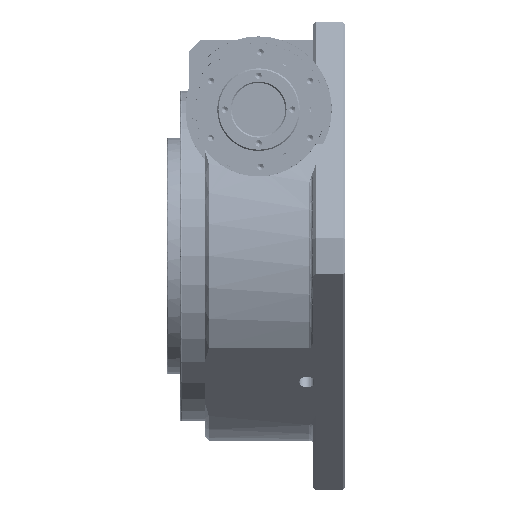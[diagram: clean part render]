
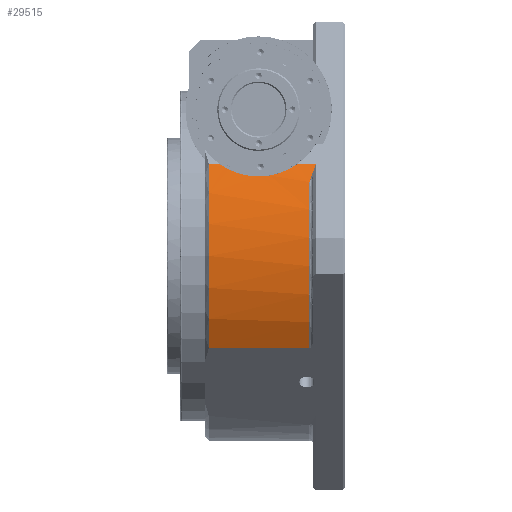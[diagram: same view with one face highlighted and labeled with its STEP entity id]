
A CAD part, left-side view. The second image highlights one B-rep face of the part: STEP entity #29515.
In plain terms, the highlighted cylindrical face has radius 145 mm (diameter 290 mm), a partial arc.
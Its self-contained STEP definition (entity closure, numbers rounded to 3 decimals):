
#535 = VERTEX_POINT ( 'NONE', #130829 ) ;
#1623 = CARTESIAN_POINT ( 'NONE',  ( -129.682, 83.597, 64.866 ) ) ;
#2146 = ORIENTED_EDGE ( 'NONE', *, *, #83223, .T. ) ;
#8179 = CYLINDRICAL_SURFACE ( 'NONE', #35228, 145. ) ;
#10221 = CARTESIAN_POINT ( 'NONE',  ( 0., 28., 0. ) ) ;
#12772 = EDGE_CURVE ( 'NONE', #101936, #31746, #26034, .T. ) ;
#13125 = CARTESIAN_POINT ( 'NONE',  ( -128.615, 89.365, 66.97 ) ) ;
#15350 = CARTESIAN_POINT ( 'NONE',  ( -128.295, 45.451, 67.57 ) ) ;
#16404 = CARTESIAN_POINT ( 'NONE',  ( -125.688, 28., -72.302 ) ) ;
#20245 = ORIENTED_EDGE ( 'NONE', *, *, #12772, .T. ) ;
#21694 = DIRECTION ( 'NONE',  ( 0., 0., 1. ) ) ;
#22859 = CARTESIAN_POINT ( 'NONE',  ( 0., 110., 0. ) ) ;
#24135 = CARTESIAN_POINT ( 'NONE',  ( -130.839, 68., 62.5 ) ) ;
#24628 = CARTESIAN_POINT ( 'NONE',  ( -126.573, 96.396, 70.763 ) ) ;
#26034 = CIRCLE ( 'NONE', #76426, 145. ) ;
#26176 = ORIENTED_EDGE ( 'NONE', *, *, #138007, .T. ) ;
#26833 = CARTESIAN_POINT ( 'NONE',  ( -128.991, 48.551, 66.231 ) ) ;
#29415 = VERTEX_POINT ( 'NONE', #77980 ) ;
#29515 = ADVANCED_FACE ( 'NONE', ( #130167 ), #8179, .T. ) ;
#29600 = VERTEX_POINT ( 'NONE', #94472 ) ;
#31746 = VERTEX_POINT ( 'NONE', #76129 ) ;
#31864 = CARTESIAN_POINT ( 'NONE',  ( 0., 107., 0. ) ) ;
#34215 = CARTESIAN_POINT ( 'NONE',  ( -125.688, 110., 72.302 ) ) ;
#35228 = AXIS2_PLACEMENT_3D ( 'NONE', #22859, #45860, #68924 ) ;
#38359 = CARTESIAN_POINT ( 'NONE',  ( -129.358, 50.466, 65.51 ) ) ;
#38453 = CIRCLE ( 'NONE', #98173, 145. ) ;
#38677 = CARTESIAN_POINT ( 'NONE',  ( -128.345, 24.387, 67.684 ) ) ;
#43367 = DIRECTION ( 'NONE',  ( 0., 0., -1. ) ) ;
#45722 =( BOUNDED_CURVE ( )  B_SPLINE_CURVE ( 3, ( #119009, #38677, #130483, #61695 ),
 .UNSPECIFIED., .F., .F. ) 
 B_SPLINE_CURVE_WITH_KNOTS ( ( 4, 4 ),
 ( 0.263, 0.374 ),
 .UNSPECIFIED. ) 
 CURVE ( )  GEOMETRIC_REPRESENTATION_ITEM ( )  RATIONAL_B_SPLINE_CURVE ( ( 1., 0.999, 0.999, 1. ) ) 
 REPRESENTATION_ITEM ( '' )  );
#45860 = DIRECTION ( 'NONE',  ( 0., -1., 0. ) ) ;
#46218 = DIRECTION ( 'NONE',  ( 0., 1., 0. ) ) ;
#47133 = CARTESIAN_POINT ( 'NONE',  ( -130.421, 77.603, 63.367 ) ) ;
#49822 = CARTESIAN_POINT ( 'NONE',  ( -130.007, 54.39, 64.22 ) ) ;
#50786 = VERTEX_POINT ( 'NONE', #118747 ) ;
#53249 = DIRECTION ( 'NONE',  ( 0., -1., 0. ) ) ;
#58592 = LINE ( 'NONE', #99415, #143017 ) ;
#58647 = CARTESIAN_POINT ( 'NONE',  ( -130.054, 80.948, 64.117 ) ) ;
#59295 = ORIENTED_EDGE ( 'NONE', *, *, #122016, .T. ) ;
#59752 = EDGE_CURVE ( 'NONE', #535, #29415, #137883, .T. ) ;
#60889 = CARTESIAN_POINT ( 'NONE',  ( -126.573, 39.604, 70.763 ) ) ;
#61369 = CARTESIAN_POINT ( 'NONE',  ( -130.734, 62.462, 62.721 ) ) ;
#61695 = CARTESIAN_POINT ( 'NONE',  ( -132.876, 28., 58.043 ) ) ;
#66812 = ORIENTED_EDGE ( 'NONE', *, *, #119793, .T. ) ;
#68030 = B_SPLINE_CURVE_WITH_KNOTS ( 'NONE', 3,
 ( #24135, #81240, #115956, #47133, #127422, #58647, #139012, #70209, #1623, #81736, #13125, #93264, #24628, #104873 ),
 .UNSPECIFIED., .F., .F.,
 ( 4, 2, 2, 2, 2, 2, 4 ),
 ( 0.033, 0.041, 0.045, 0.047, 0.05, 0.058, 0.066 ),
 .UNSPECIFIED. ) ;
#68924 = DIRECTION ( 'NONE',  ( 0., 0., -1. ) ) ;
#70209 = CARTESIAN_POINT ( 'NONE',  ( -129.783, 82.936, 64.665 ) ) ;
#72942 = CARTESIAN_POINT ( 'NONE',  ( -130.839, 68., 62.5 ) ) ;
#76129 = CARTESIAN_POINT ( 'NONE',  ( -132.876, 28., 58.043 ) ) ;
#76426 = AXIS2_PLACEMENT_3D ( 'NONE', #10221, #90350, #21694 ) ;
#77980 = CARTESIAN_POINT ( 'NONE',  ( -125.688, 37.452, 72.302 ) ) ;
#81240 = CARTESIAN_POINT ( 'NONE',  ( -130.839, 70.791, 62.5 ) ) ;
#81514 = EDGE_CURVE ( 'NONE', #29415, #106486, #123791, .T. ) ;
#81736 = CARTESIAN_POINT ( 'NONE',  ( -129.147, 86.869, 65.931 ) ) ;
#83223 = EDGE_CURVE ( 'NONE', #106486, #29600, #68030, .T. ) ;
#83991 = CARTESIAN_POINT ( 'NONE',  ( -127.329, 41.873, 69.385 ) ) ;
#84976 = ORIENTED_EDGE ( 'NONE', *, *, #138658, .F. ) ;
#85958 = CARTESIAN_POINT ( 'NONE',  ( -125.688, 25., 72.302 ) ) ;
#89174 = ORIENTED_EDGE ( 'NONE', *, *, #81514, .T. ) ;
#90350 = DIRECTION ( 'NONE',  ( 0., 1., 0. ) ) ;
#93264 = CARTESIAN_POINT ( 'NONE',  ( -127.328, 94.129, 69.386 ) ) ;
#94472 = CARTESIAN_POINT ( 'NONE',  ( -125.688, 98.548, 72.302 ) ) ;
#95539 = CARTESIAN_POINT ( 'NONE',  ( -128.59, 46.673, 67.008 ) ) ;
#98173 = AXIS2_PLACEMENT_3D ( 'NONE', #31864, #112199, #43367 ) ;
#99415 = CARTESIAN_POINT ( 'NONE',  ( -125.688, 25., -72.302 ) ) ;
#101936 = VERTEX_POINT ( 'NONE', #16404 ) ;
#104873 = CARTESIAN_POINT ( 'NONE',  ( -125.688, 98.548, 72.302 ) ) ;
#106486 = VERTEX_POINT ( 'NONE', #108623 ) ;
#107130 = CARTESIAN_POINT ( 'NONE',  ( -129.118, 49.184, 65.983 ) ) ;
#108623 = CARTESIAN_POINT ( 'NONE',  ( -130.839, 68., 62.5 ) ) ;
#109411 = VECTOR ( 'NONE', #120678, 1000. ) ;
#112199 = DIRECTION ( 'NONE',  ( 0., -1., 0. ) ) ;
#115956 = CARTESIAN_POINT ( 'NONE',  ( -130.734, 73.54, 62.721 ) ) ;
#118228 = LINE ( 'NONE', #34215, #141531 ) ;
#118696 = CARTESIAN_POINT ( 'NONE',  ( -129.472, 51.116, 65.284 ) ) ;
#118747 = CARTESIAN_POINT ( 'NONE',  ( -125.688, 107., -72.302 ) ) ;
#119009 = CARTESIAN_POINT ( 'NONE',  ( -125.688, 23., 72.302 ) ) ;
#119793 = EDGE_CURVE ( 'NONE', #29600, #132854, #118228, .T. ) ;
#120678 = DIRECTION ( 'NONE',  ( 0., 1., 0. ) ) ;
#122016 = EDGE_CURVE ( 'NONE', #50786, #101936, #58592, .T. ) ;
#123791 = B_SPLINE_CURVE_WITH_KNOTS ( 'NONE', 3,
 ( #141239, #60889, #83991, #15350, #95539, #26833, #107130, #38359, #118696, #49822, #130176, #61369, #141730, #72942 ),
 .UNSPECIFIED., .F., .F.,
 ( 4, 2, 2, 2, 2, 2, 4 ),
 ( 0., 0.008, 0.012, 0.014, 0.017, 0.025, 0.033 ),
 .UNSPECIFIED. ) ;
#127422 = CARTESIAN_POINT ( 'NONE',  ( -130.291, 78.947, 63.636 ) ) ;
#130167 = FACE_OUTER_BOUND ( 'NONE', #147177, .T. ) ;
#130176 = CARTESIAN_POINT ( 'NONE',  ( -130.318, 57.053, 63.581 ) ) ;
#130483 = CARTESIAN_POINT ( 'NONE',  ( -130.743, 26.056, 62.926 ) ) ;
#130829 = CARTESIAN_POINT ( 'NONE',  ( -125.688, 23., 72.302 ) ) ;
#132854 = VERTEX_POINT ( 'NONE', #147810 ) ;
#137883 = LINE ( 'NONE', #85958, #109411 ) ;
#138007 = EDGE_CURVE ( 'NONE', #132854, #50786, #38453, .T. ) ;
#138658 = EDGE_CURVE ( 'NONE', #535, #31746, #45722, .T. ) ;
#139012 = CARTESIAN_POINT ( 'NONE',  ( -129.968, 81.613, 64.291 ) ) ;
#141239 = CARTESIAN_POINT ( 'NONE',  ( -125.688, 37.452, 72.302 ) ) ;
#141531 = VECTOR ( 'NONE', #46218, 1000. ) ;
#141730 = CARTESIAN_POINT ( 'NONE',  ( -130.839, 65.209, 62.5 ) ) ;
#143017 = VECTOR ( 'NONE', #53249, 1000. ) ;
#147177 = EDGE_LOOP ( 'NONE', ( #89174, #2146, #66812, #26176, #59295, #20245, #84976, #148219 ) ) ;
#147810 = CARTESIAN_POINT ( 'NONE',  ( -125.688, 107., 72.302 ) ) ;
#148219 = ORIENTED_EDGE ( 'NONE', *, *, #59752, .T. ) ;
